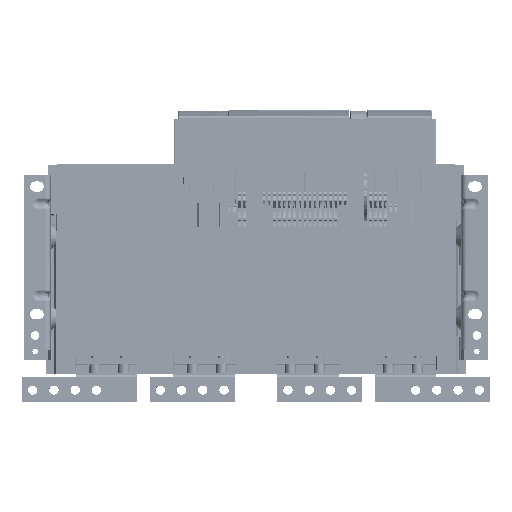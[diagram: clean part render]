
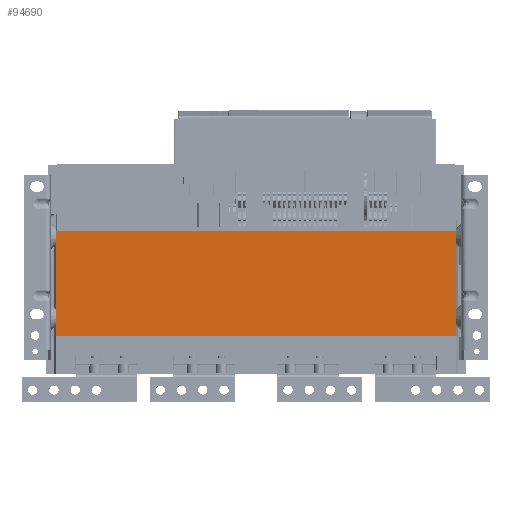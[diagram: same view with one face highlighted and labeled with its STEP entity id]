
A CAD part, top view. The second image highlights one B-rep face of the part: STEP entity #94690.
In plain terms, the highlighted planar face has unit normal (0, 0, 1).
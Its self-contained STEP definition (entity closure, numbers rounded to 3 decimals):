
#6777=FACE_OUTER_BOUND('',#12269,.T.);
#12269=EDGE_LOOP('',(#71556,#71557,#71558,#71559));
#22398=LINE('',#147577,#32026);
#22476=LINE('',#147749,#32104);
#22727=LINE('',#148281,#32355);
#22728=LINE('',#148283,#32356);
#32026=VECTOR('',#115816,471.);
#32104=VECTOR('',#115914,471.);
#32355=VECTOR('',#116419,123.);
#32356=VECTOR('',#116422,123.);
#41437=VERTEX_POINT('',#147574);
#41438=VERTEX_POINT('',#147576);
#41521=VERTEX_POINT('',#147746);
#41522=VERTEX_POINT('',#147748);
#52154=EDGE_CURVE('',#41437,#41438,#22398,.T.);
#52240=EDGE_CURVE('',#41522,#41521,#22476,.T.);
#52503=EDGE_CURVE('',#41521,#41438,#22727,.T.);
#52504=EDGE_CURVE('',#41522,#41437,#22728,.T.);
#71556=ORIENTED_EDGE('',*,*,#52240,.T.);
#71557=ORIENTED_EDGE('',*,*,#52503,.T.);
#71558=ORIENTED_EDGE('',*,*,#52154,.F.);
#71559=ORIENTED_EDGE('',*,*,#52504,.F.);
#90215=PLANE('',#101427);
#94690=ADVANCED_FACE('',(#6777),#90215,.T.);
#101427=AXIS2_PLACEMENT_3D('',#148282,#116420,#116421);
#115816=DIRECTION('',(1.,0.,0.));
#115914=DIRECTION('',(1.,0.,0.));
#116419=DIRECTION('',(0.,1.,0.));
#116420=DIRECTION('center_axis',(0.,0.,1.));
#116421=DIRECTION('ref_axis',(1.,0.,0.));
#116422=DIRECTION('',(0.,1.,0.));
#147574=CARTESIAN_POINT('',(-293.,123.,150.));
#147576=CARTESIAN_POINT('',(178.,123.,150.));
#147577=CARTESIAN_POINT('',(-293.,123.,150.));
#147746=CARTESIAN_POINT('',(178.,0.,150.));
#147748=CARTESIAN_POINT('',(-293.,0.,150.));
#147749=CARTESIAN_POINT('',(-293.,0.,150.));
#148281=CARTESIAN_POINT('',(178.,0.,150.));
#148282=CARTESIAN_POINT('Origin',(-293.,0.,150.));
#148283=CARTESIAN_POINT('',(-293.,0.,150.));
